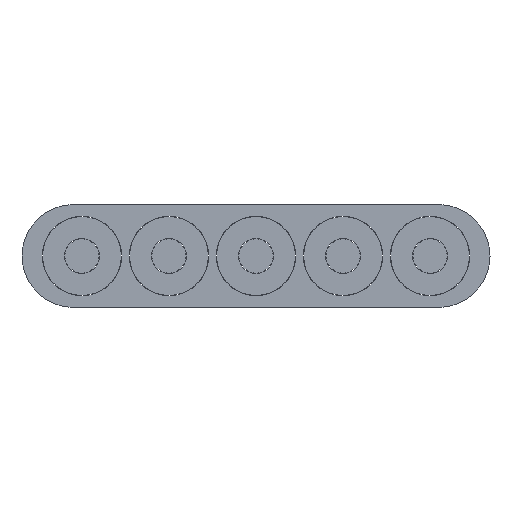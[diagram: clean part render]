
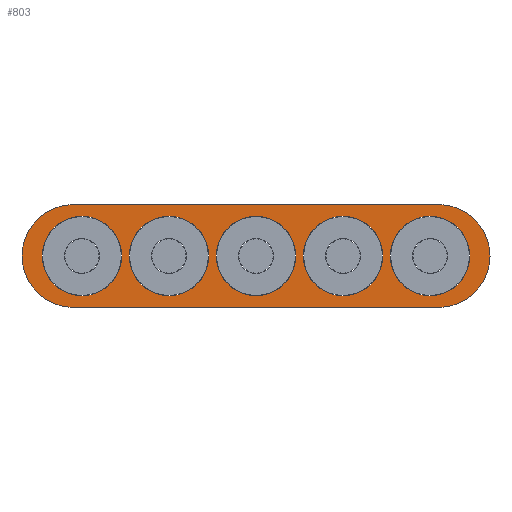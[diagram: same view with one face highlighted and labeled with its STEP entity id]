
A CAD part, front view. The second image highlights one B-rep face of the part: STEP entity #803.
In plain terms, the highlighted planar face has unit normal (0, -1, 0).
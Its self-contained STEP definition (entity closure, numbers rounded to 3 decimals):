
#9 = VERTEX_POINT ( 'NONE', #1730 ) ;
#21 = EDGE_LOOP ( 'NONE', ( #706, #397 ) ) ;
#47 = LINE ( 'NONE', #1788, #306 ) ;
#64 = CARTESIAN_POINT ( 'NONE',  ( 5.205, 0., 0. ) ) ;
#87 = AXIS2_PLACEMENT_3D ( 'NONE', #901, #1488, #349 ) ;
#116 = ORIENTED_EDGE ( 'NONE', *, *, #537, .T. ) ;
#117 = AXIS2_PLACEMENT_3D ( 'NONE', #1520, #225, #1369 ) ;
#160 = CARTESIAN_POINT ( 'NONE',  ( 5.33, 0., -0.75 ) ) ;
#168 = EDGE_LOOP ( 'NONE', ( #1756, #321 ) ) ;
#170 = ORIENTED_EDGE ( 'NONE', *, *, #1797, .T. ) ;
#175 = EDGE_LOOP ( 'NONE', ( #1790, #497 ) ) ;
#180 = DIRECTION ( 'NONE',  ( 0., 0., 1. ) ) ;
#185 = CIRCLE ( 'NONE', #630, 0.58 ) ;
#205 = DIRECTION ( 'NONE',  ( 0., 0., 1. ) ) ;
#211 = CARTESIAN_POINT ( 'NONE',  ( 0., 0., -0.75 ) ) ;
#217 = CIRCLE ( 'NONE', #389, 0.58 ) ;
#225 = DIRECTION ( 'NONE',  ( 0., 1., 0. ) ) ;
#240 = EDGE_CURVE ( 'NONE', #1127, #1787, #1695, .T. ) ;
#243 = AXIS2_PLACEMENT_3D ( 'NONE', #442, #1580, #436 ) ;
#255 = DIRECTION ( 'NONE',  ( 0., 1., 0. ) ) ;
#283 = EDGE_CURVE ( 'NONE', #339, #402, #217, .T. ) ;
#306 = VECTOR ( 'NONE', #922, 1000. ) ;
#321 = ORIENTED_EDGE ( 'NONE', *, *, #1180, .T. ) ;
#339 = VERTEX_POINT ( 'NONE', #364 ) ;
#340 = CARTESIAN_POINT ( 'NONE',  ( 1.395, 0., 0. ) ) ;
#349 = DIRECTION ( 'NONE',  ( 0., 0., 1. ) ) ;
#359 = DIRECTION ( 'NONE',  ( 0., 0., 1. ) ) ;
#364 = CARTESIAN_POINT ( 'NONE',  ( 3.935, 0., -0.58 ) ) ;
#380 = VERTEX_POINT ( 'NONE', #580 ) ;
#382 = FACE_OUTER_BOUND ( 'NONE', #1663, .T. ) ;
#387 = AXIS2_PLACEMENT_3D ( 'NONE', #794, #1060, #359 ) ;
#389 = AXIS2_PLACEMENT_3D ( 'NONE', #523, #1378, #1074 ) ;
#397 = ORIENTED_EDGE ( 'NONE', *, *, #240, .T. ) ;
#402 = VERTEX_POINT ( 'NONE', #1034 ) ;
#403 = VERTEX_POINT ( 'NONE', #1305 ) ;
#420 = CIRCLE ( 'NONE', #387, 0.75 ) ;
#436 = DIRECTION ( 'NONE',  ( 0., 0., 1. ) ) ;
#440 = ORIENTED_EDGE ( 'NONE', *, *, #606, .F. ) ;
#442 = CARTESIAN_POINT ( 'NONE',  ( 5.205, 0., 0. ) ) ;
#477 = AXIS2_PLACEMENT_3D ( 'NONE', #638, #498, #1638 ) ;
#486 = CARTESIAN_POINT ( 'NONE',  ( 2.665, 0., 0. ) ) ;
#487 = CIRCLE ( 'NONE', #1725, 0.58 ) ;
#488 = EDGE_CURVE ( 'NONE', #402, #339, #1801, .T. ) ;
#497 = ORIENTED_EDGE ( 'NONE', *, *, #283, .T. ) ;
#498 = DIRECTION ( 'NONE',  ( 0., 1., 0. ) ) ;
#512 = EDGE_CURVE ( 'NONE', #999, #9, #185, .T. ) ;
#514 = DIRECTION ( 'NONE',  ( 0., 1., 0. ) ) ;
#523 = CARTESIAN_POINT ( 'NONE',  ( 3.935, 0., 0. ) ) ;
#527 = FACE_BOUND ( 'NONE', #1123, .T. ) ;
#537 = EDGE_CURVE ( 'NONE', #1723, #768, #911, .T. ) ;
#555 = EDGE_CURVE ( 'NONE', #1832, #1206, #785, .T. ) ;
#576 = EDGE_CURVE ( 'NONE', #768, #1723, #1089, .T. ) ;
#580 = CARTESIAN_POINT ( 'NONE',  ( 0., 0., 0.75 ) ) ;
#590 = EDGE_CURVE ( 'NONE', #1549, #1611, #47, .T. ) ;
#604 = AXIS2_PLACEMENT_3D ( 'NONE', #967, #647, #823 ) ;
#606 = EDGE_CURVE ( 'NONE', #1611, #380, #1384, .T. ) ;
#630 = AXIS2_PLACEMENT_3D ( 'NONE', #486, #1051, #1331 ) ;
#638 = CARTESIAN_POINT ( 'NONE',  ( 1.395, 0., 0. ) ) ;
#647 = DIRECTION ( 'NONE',  ( 0., 1., 0. ) ) ;
#660 = CARTESIAN_POINT ( 'NONE',  ( 1.395, 0., 0.58 ) ) ;
#674 = PLANE ( 'NONE',  #604 ) ;
#706 = ORIENTED_EDGE ( 'NONE', *, *, #1013, .T. ) ;
#714 = CARTESIAN_POINT ( 'NONE',  ( 0.125, 0., 0.58 ) ) ;
#717 = ORIENTED_EDGE ( 'NONE', *, *, #590, .F. ) ;
#766 = DIRECTION ( 'NONE',  ( 0., 1., 0. ) ) ;
#768 = VERTEX_POINT ( 'NONE', #1815 ) ;
#785 = CIRCLE ( 'NONE', #87, 0.58 ) ;
#794 = CARTESIAN_POINT ( 'NONE',  ( 5.33, 0., 0. ) ) ;
#803 = ADVANCED_FACE ( 'NONE', ( #1413, #810, #527, #1105, #1672, #382 ), #674, .F. ) ;
#810 = FACE_BOUND ( 'NONE', #883, .T. ) ;
#815 = VECTOR ( 'NONE', #1754, 1000. ) ;
#823 = DIRECTION ( 'NONE',  ( 0., 0., 1. ) ) ;
#831 = DIRECTION ( 'NONE',  ( 0., 0., 1. ) ) ;
#837 = CARTESIAN_POINT ( 'NONE',  ( 0.125, 0., -0.58 ) ) ;
#883 = EDGE_LOOP ( 'NONE', ( #1615, #170 ) ) ;
#896 = CARTESIAN_POINT ( 'NONE',  ( 0., 0., 0.75 ) ) ;
#901 = CARTESIAN_POINT ( 'NONE',  ( 0.125, 0., 0. ) ) ;
#911 = CIRCLE ( 'NONE', #477, 0.58 ) ;
#922 = DIRECTION ( 'NONE',  ( -1., 0., 0. ) ) ;
#959 = ORIENTED_EDGE ( 'NONE', *, *, #1148, .F. ) ;
#963 = CARTESIAN_POINT ( 'NONE',  ( 0.125, 0., 0. ) ) ;
#967 = CARTESIAN_POINT ( 'NONE',  ( 0., 0., 0. ) ) ;
#984 = CARTESIAN_POINT ( 'NONE',  ( 5.205, 0., 0.58 ) ) ;
#987 = EDGE_CURVE ( 'NONE', #380, #403, #1459, .T. ) ;
#999 = VERTEX_POINT ( 'NONE', #1299 ) ;
#1013 = EDGE_CURVE ( 'NONE', #1787, #1127, #1055, .T. ) ;
#1030 = AXIS2_PLACEMENT_3D ( 'NONE', #1343, #1497, #205 ) ;
#1034 = CARTESIAN_POINT ( 'NONE',  ( 3.935, 0., 0.58 ) ) ;
#1051 = DIRECTION ( 'NONE',  ( 0., 1., 0. ) ) ;
#1055 = CIRCLE ( 'NONE', #243, 0.58 ) ;
#1060 = DIRECTION ( 'NONE',  ( 0., 1., 0. ) ) ;
#1067 = ORIENTED_EDGE ( 'NONE', *, *, #576, .T. ) ;
#1074 = DIRECTION ( 'NONE',  ( 0., 0., 1. ) ) ;
#1089 = CIRCLE ( 'NONE', #1833, 0.58 ) ;
#1105 = FACE_BOUND ( 'NONE', #168, .T. ) ;
#1117 = CIRCLE ( 'NONE', #117, 0.58 ) ;
#1123 = EDGE_LOOP ( 'NONE', ( #116, #1067 ) ) ;
#1127 = VERTEX_POINT ( 'NONE', #1351 ) ;
#1148 = EDGE_CURVE ( 'NONE', #403, #1549, #420, .T. ) ;
#1168 = DIRECTION ( 'NONE',  ( 0., 1., 0. ) ) ;
#1175 = CARTESIAN_POINT ( 'NONE',  ( 3.935, 0., 0. ) ) ;
#1180 = EDGE_CURVE ( 'NONE', #9, #999, #1117, .T. ) ;
#1206 = VERTEX_POINT ( 'NONE', #837 ) ;
#1220 = DIRECTION ( 'NONE',  ( 0., 0., 1. ) ) ;
#1291 = DIRECTION ( 'NONE',  ( 0., 0., 1. ) ) ;
#1299 = CARTESIAN_POINT ( 'NONE',  ( 2.665, 0., 0.58 ) ) ;
#1305 = CARTESIAN_POINT ( 'NONE',  ( 5.33, 0., 0.75 ) ) ;
#1331 = DIRECTION ( 'NONE',  ( 0., 0., 1. ) ) ;
#1343 = CARTESIAN_POINT ( 'NONE',  ( 0., 0., 0. ) ) ;
#1351 = CARTESIAN_POINT ( 'NONE',  ( 5.205, 0., -0.58 ) ) ;
#1369 = DIRECTION ( 'NONE',  ( 0., 0., 1. ) ) ;
#1378 = DIRECTION ( 'NONE',  ( 0., 1., 0. ) ) ;
#1384 = CIRCLE ( 'NONE', #1030, 0.75 ) ;
#1413 = FACE_BOUND ( 'NONE', #21, .T. ) ;
#1450 = AXIS2_PLACEMENT_3D ( 'NONE', #1175, #1168, #1291 ) ;
#1459 = LINE ( 'NONE', #896, #815 ) ;
#1488 = DIRECTION ( 'NONE',  ( 0., 1., 0. ) ) ;
#1497 = DIRECTION ( 'NONE',  ( 0., 1., 0. ) ) ;
#1520 = CARTESIAN_POINT ( 'NONE',  ( 2.665, 0., 0. ) ) ;
#1549 = VERTEX_POINT ( 'NONE', #160 ) ;
#1567 = ORIENTED_EDGE ( 'NONE', *, *, #987, .F. ) ;
#1580 = DIRECTION ( 'NONE',  ( 0., 1., 0. ) ) ;
#1611 = VERTEX_POINT ( 'NONE', #211 ) ;
#1615 = ORIENTED_EDGE ( 'NONE', *, *, #555, .T. ) ;
#1638 = DIRECTION ( 'NONE',  ( 0., 0., 1. ) ) ;
#1663 = EDGE_LOOP ( 'NONE', ( #440, #717, #959, #1567 ) ) ;
#1672 = FACE_BOUND ( 'NONE', #175, .T. ) ;
#1695 = CIRCLE ( 'NONE', #1784, 0.58 ) ;
#1723 = VERTEX_POINT ( 'NONE', #660 ) ;
#1725 = AXIS2_PLACEMENT_3D ( 'NONE', #963, #255, #831 ) ;
#1730 = CARTESIAN_POINT ( 'NONE',  ( 2.665, 0., -0.58 ) ) ;
#1754 = DIRECTION ( 'NONE',  ( 1., 0., 0. ) ) ;
#1756 = ORIENTED_EDGE ( 'NONE', *, *, #512, .T. ) ;
#1784 = AXIS2_PLACEMENT_3D ( 'NONE', #64, #514, #1220 ) ;
#1787 = VERTEX_POINT ( 'NONE', #984 ) ;
#1788 = CARTESIAN_POINT ( 'NONE',  ( 0., 0., -0.75 ) ) ;
#1790 = ORIENTED_EDGE ( 'NONE', *, *, #488, .T. ) ;
#1797 = EDGE_CURVE ( 'NONE', #1206, #1832, #487, .T. ) ;
#1801 = CIRCLE ( 'NONE', #1450, 0.58 ) ;
#1815 = CARTESIAN_POINT ( 'NONE',  ( 1.395, 0., -0.58 ) ) ;
#1832 = VERTEX_POINT ( 'NONE', #714 ) ;
#1833 = AXIS2_PLACEMENT_3D ( 'NONE', #340, #766, #180 ) ;
